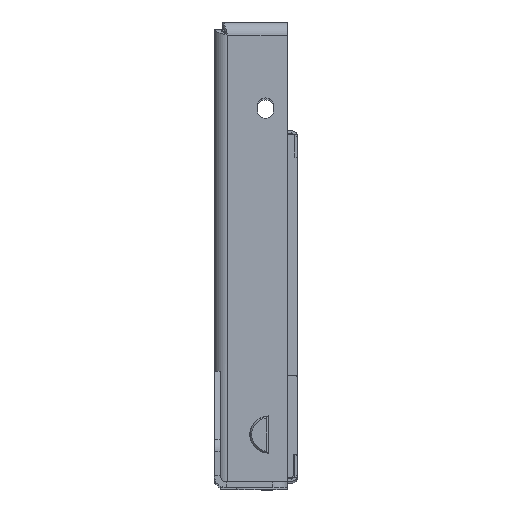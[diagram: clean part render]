
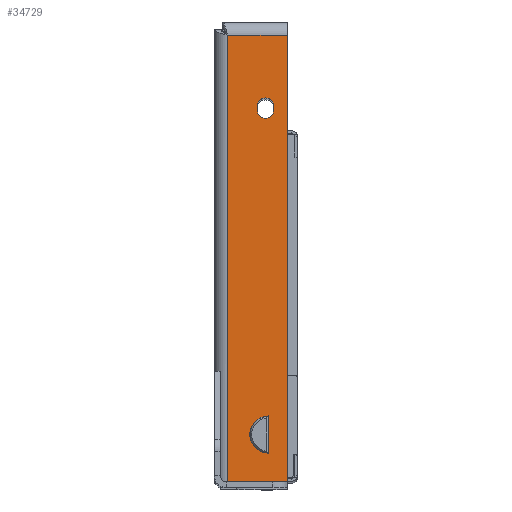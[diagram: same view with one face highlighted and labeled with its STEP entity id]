
A CAD part, top view. The second image highlights one B-rep face of the part: STEP entity #34729.
In plain terms, the highlighted planar face has unit normal (0, 0, 1).
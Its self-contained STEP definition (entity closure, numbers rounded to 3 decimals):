
#724 = EDGE_CURVE ( 'NONE', #63536, #24294, #38979, .T. ) ;
#1670 = ORIENTED_EDGE ( 'NONE', *, *, #61724, .F. ) ;
#2269 = ORIENTED_EDGE ( 'NONE', *, *, #63483, .T. ) ;
#2480 = VECTOR ( 'NONE', #73312, 1000. ) ;
#2633 = EDGE_LOOP ( 'NONE', ( #76439, #73470, #19197, #80163 ) ) ;
#4019 = AXIS2_PLACEMENT_3D ( 'NONE', #51915, #7844, #38983 ) ;
#4436 = CARTESIAN_POINT ( 'NONE',  ( 12., -112.25, 0. ) ) ;
#4791 = CARTESIAN_POINT ( 'NONE',  ( 10., 100., 0. ) ) ;
#5266 = VECTOR ( 'NONE', #59308, 1000. ) ;
#6268 = VECTOR ( 'NONE', #30139, 1000. ) ;
#6488 = DIRECTION ( 'NONE',  ( 0., 0., 1. ) ) ;
#6579 = AXIS2_PLACEMENT_3D ( 'NONE', #31978, #36995, #57353 ) ;
#7844 = DIRECTION ( 'NONE',  ( 0., 0., 1. ) ) ;
#10213 = DIRECTION ( 'NONE',  ( 0., 0., 1. ) ) ;
#10448 = LINE ( 'NONE', #11661, #17971 ) ;
#11661 = CARTESIAN_POINT ( 'NONE',  ( 25., 148.5, 0. ) ) ;
#13575 = AXIS2_PLACEMENT_3D ( 'NONE', #4791, #10213, #35508 ) ;
#14719 = DIRECTION ( 'NONE',  ( 0., 1., 0. ) ) ;
#14866 = CIRCLE ( 'NONE', #13575, 5.5 ) ;
#15476 = EDGE_CURVE ( 'NONE', #54521, #49374, #51304, .T. ) ;
#17066 = DIRECTION ( 'NONE',  ( -1., 0., 0. ) ) ;
#17971 = VECTOR ( 'NONE', #17066, 1000. ) ;
#18697 = CARTESIAN_POINT ( 'NONE',  ( -16., 152.146, 0. ) ) ;
#18945 = PLANE ( 'NONE',  #31447 ) ;
#19197 = ORIENTED_EDGE ( 'NONE', *, *, #81671, .F. ) ;
#19640 = ORIENTED_EDGE ( 'NONE', *, *, #15476, .T. ) ;
#19757 = EDGE_CURVE ( 'NONE', #38781, #54521, #31536, .T. ) ;
#19871 = VERTEX_POINT ( 'NONE', #38596 ) ;
#22717 = EDGE_CURVE ( 'NONE', #78211, #63536, #54443, .T. ) ;
#24294 = VERTEX_POINT ( 'NONE', #35785 ) ;
#25603 = FACE_BOUND ( 'NONE', #2633, .T. ) ;
#25869 = VERTEX_POINT ( 'NONE', #31243 ) ;
#26666 = ORIENTED_EDGE ( 'NONE', *, *, #57719, .T. ) ;
#28753 = EDGE_LOOP ( 'NONE', ( #2269, #26666, #54726, #19640 ) ) ;
#30139 = DIRECTION ( 'NONE',  ( 0., 1., 0. ) ) ;
#30813 = CARTESIAN_POINT ( 'NONE',  ( 25., 148.5, 0. ) ) ;
#31243 = CARTESIAN_POINT ( 'NONE',  ( 12., -112.25, 0. ) ) ;
#31447 = AXIS2_PLACEMENT_3D ( 'NONE', #44323, #6488, #38440 ) ;
#31536 = LINE ( 'NONE', #18697, #77982 ) ;
#31978 = CARTESIAN_POINT ( 'NONE',  ( 12., -125., 0. ) ) ;
#34729 = ADVANCED_FACE ( 'NONE', ( #25603, #62969, #63378 ), #18945, .T. ) ;
#34857 = DIRECTION ( 'NONE',  ( 1., 0., 0. ) ) ;
#35508 = DIRECTION ( 'NONE',  ( 1., 0., 0. ) ) ;
#35785 = CARTESIAN_POINT ( 'NONE',  ( 15.5, 100., 0. ) ) ;
#36995 = DIRECTION ( 'NONE',  ( 0., 0., 1. ) ) ;
#38440 = DIRECTION ( 'NONE',  ( 1., 0., 0. ) ) ;
#38446 = CARTESIAN_POINT ( 'NONE',  ( 25., -157.5, 0. ) ) ;
#38596 = CARTESIAN_POINT ( 'NONE',  ( 4.5, 100., 0. ) ) ;
#38781 = VERTEX_POINT ( 'NONE', #63943 ) ;
#38979 = LINE ( 'NONE', #58105, #2480 ) ;
#38983 = DIRECTION ( 'NONE',  ( 1., 0., 0. ) ) ;
#40655 = ORIENTED_EDGE ( 'NONE', *, *, #48071, .F. ) ;
#44078 = DIRECTION ( 'NONE',  ( 0., -1., 0. ) ) ;
#44323 = CARTESIAN_POINT ( 'NONE',  ( 0., 0., 0. ) ) ;
#45530 = CARTESIAN_POINT ( 'NONE',  ( 25., -157.5, 0. ) ) ;
#48071 = EDGE_CURVE ( 'NONE', #69020, #25869, #74512, .T. ) ;
#49374 = VERTEX_POINT ( 'NONE', #38446 ) ;
#50960 = CARTESIAN_POINT ( 'NONE',  ( 4.5, 97., 0. ) ) ;
#51304 = LINE ( 'NONE', #76463, #69449 ) ;
#51915 = CARTESIAN_POINT ( 'NONE',  ( 10., 97., 0. ) ) ;
#52157 = LINE ( 'NONE', #45530, #76941 ) ;
#54443 = CIRCLE ( 'NONE', #4019, 5.5 ) ;
#54521 = VERTEX_POINT ( 'NONE', #63387 ) ;
#54726 = ORIENTED_EDGE ( 'NONE', *, *, #19757, .T. ) ;
#55680 = CIRCLE ( 'NONE', #6579, 12.75 ) ;
#57353 = DIRECTION ( 'NONE',  ( 1., 0., 0. ) ) ;
#57719 = EDGE_CURVE ( 'NONE', #60850, #38781, #10448, .T. ) ;
#58105 = CARTESIAN_POINT ( 'NONE',  ( 15.5, 97., 0. ) ) ;
#58364 = CARTESIAN_POINT ( 'NONE',  ( 15.5, 97., 0. ) ) ;
#58911 = CARTESIAN_POINT ( 'NONE',  ( 4.5, 97., 0. ) ) ;
#59308 = DIRECTION ( 'NONE',  ( 0., -1., 0. ) ) ;
#60552 = EDGE_CURVE ( 'NONE', #19871, #78211, #77857, .T. ) ;
#60850 = VERTEX_POINT ( 'NONE', #30813 ) ;
#61190 = EDGE_LOOP ( 'NONE', ( #1670, #40655 ) ) ;
#61724 = EDGE_CURVE ( 'NONE', #25869, #69020, #55680, .T. ) ;
#62969 = FACE_BOUND ( 'NONE', #61190, .T. ) ;
#63378 = FACE_OUTER_BOUND ( 'NONE', #28753, .T. ) ;
#63387 = CARTESIAN_POINT ( 'NONE',  ( -16., -157.5, 0. ) ) ;
#63483 = EDGE_CURVE ( 'NONE', #49374, #60850, #52157, .T. ) ;
#63536 = VERTEX_POINT ( 'NONE', #58364 ) ;
#63943 = CARTESIAN_POINT ( 'NONE',  ( -16., 148.5, 0. ) ) ;
#69020 = VERTEX_POINT ( 'NONE', #71577 ) ;
#69449 = VECTOR ( 'NONE', #34857, 1000. ) ;
#71577 = CARTESIAN_POINT ( 'NONE',  ( 12., -137.75, 0. ) ) ;
#73312 = DIRECTION ( 'NONE',  ( 0., 1., 0. ) ) ;
#73470 = ORIENTED_EDGE ( 'NONE', *, *, #60552, .F. ) ;
#74512 = LINE ( 'NONE', #4436, #6268 ) ;
#76439 = ORIENTED_EDGE ( 'NONE', *, *, #22717, .F. ) ;
#76463 = CARTESIAN_POINT ( 'NONE',  ( 25., -157.5, 0. ) ) ;
#76941 = VECTOR ( 'NONE', #14719, 1000. ) ;
#77857 = LINE ( 'NONE', #58911, #5266 ) ;
#77982 = VECTOR ( 'NONE', #44078, 1000. ) ;
#78211 = VERTEX_POINT ( 'NONE', #50960 ) ;
#80163 = ORIENTED_EDGE ( 'NONE', *, *, #724, .F. ) ;
#81671 = EDGE_CURVE ( 'NONE', #24294, #19871, #14866, .T. ) ;
